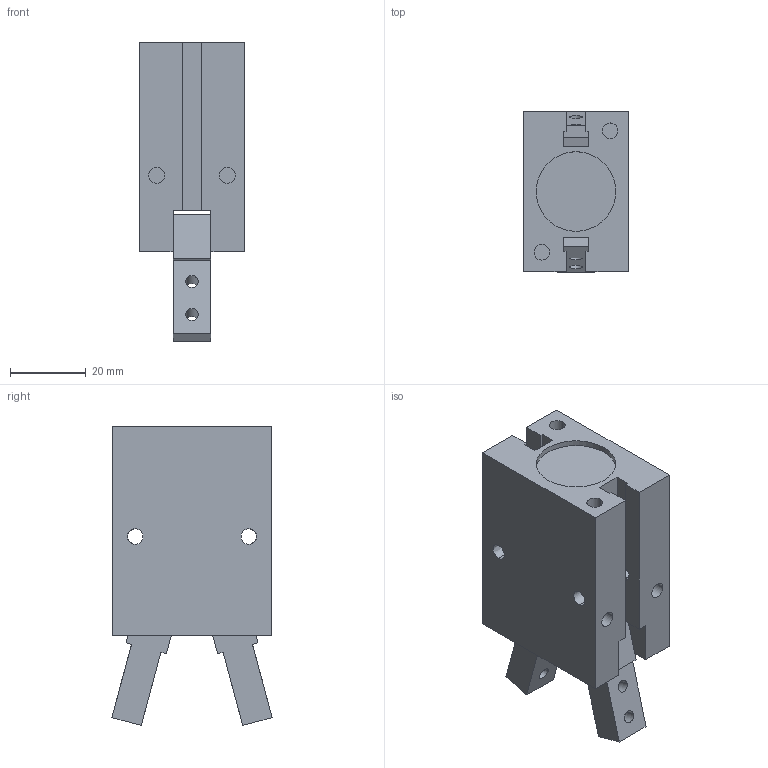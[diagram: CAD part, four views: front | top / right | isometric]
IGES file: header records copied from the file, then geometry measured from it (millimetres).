
Global section: file name: No Iges File Name specified; native system: AutoDesk Inventor R11.0; preprocessor: AutoDesk Inventor Iges Exporter R11.0; author: No Author specified; organization: No Organization specified; date: 20070226.135819; units: millimetre
Bounding box: 27.6 x 42.22 x 78.78 mm (x, y, z)
Volume: 57046.1 mm3; surface area: 17126.1 mm2
Topology: 3 solids, 3 shells, 99 faces, 282 edges, 188 vertices
Faces by surface type: plane 53, bspline 34, revolution 8, cylinder 4
